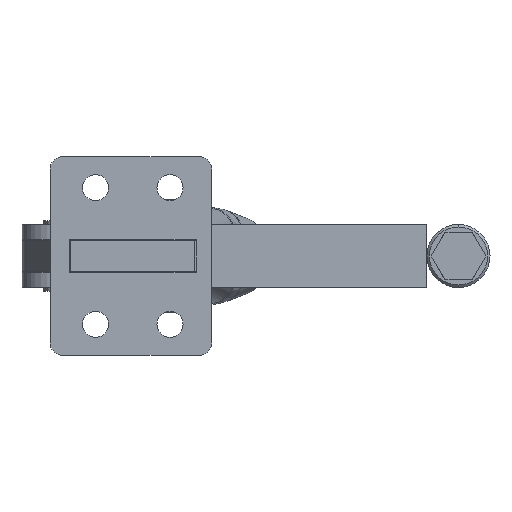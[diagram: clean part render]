
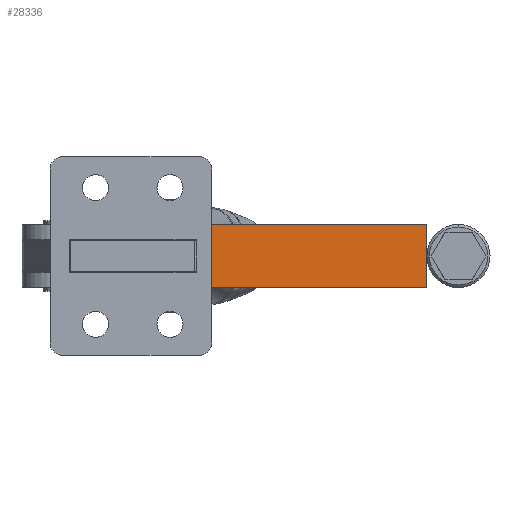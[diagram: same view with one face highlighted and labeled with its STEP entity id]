
A CAD part, front view. The second image highlights one B-rep face of the part: STEP entity #28336.
In plain terms, the highlighted planar face has unit normal (0.001, -1, 0).
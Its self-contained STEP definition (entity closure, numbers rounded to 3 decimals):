
#348 = FACE_OUTER_BOUND ( 'NONE', #8696, .T. ) ;
#603 = CIRCLE ( 'NONE', #27041, 6.5 ) ;
#768 = VECTOR ( 'NONE', #3323, 1000. ) ;
#1986 = VERTEX_POINT ( 'NONE', #27159 ) ;
#2802 = DIRECTION ( 'NONE',  ( 0., 0., -1. ) ) ;
#2814 = CARTESIAN_POINT ( 'NONE',  ( -69.5, -15., 0. ) ) ;
#3224 = CARTESIAN_POINT ( 'NONE',  ( -69.5, -15., -6.5 ) ) ;
#3281 = EDGE_CURVE ( 'NONE', #1986, #11121, #11410, .T. ) ;
#3323 = DIRECTION ( 'NONE',  ( 0., 0., -1. ) ) ;
#4105 = DIRECTION ( 'NONE',  ( 1., 0., 0. ) ) ;
#4804 = CARTESIAN_POINT ( 'NONE',  ( -69.5, -15., 6.5 ) ) ;
#5083 = DIRECTION ( 'NONE',  ( 0., 0., 1. ) ) ;
#6772 = CARTESIAN_POINT ( 'NONE',  ( -163., -15., 12.5 ) ) ;
#7205 = CARTESIAN_POINT ( 'NONE',  ( -163., -15., 12.5 ) ) ;
#7810 = AXIS2_PLACEMENT_3D ( 'NONE', #7205, #9527, #25438 ) ;
#7999 = LINE ( 'NONE', #16567, #19411 ) ;
#8095 = EDGE_CURVE ( 'NONE', #23803, #18026, #7999, .T. ) ;
#8696 = EDGE_LOOP ( 'NONE', ( #21196, #27291, #25949, #26982, #11458, #13996, #10576, #24153 ) ) ;
#8802 = VECTOR ( 'NONE', #4105, 1000. ) ;
#8855 = VERTEX_POINT ( 'NONE', #28842 ) ;
#9527 = DIRECTION ( 'NONE',  ( 0., 1., 0. ) ) ;
#10576 = ORIENTED_EDGE ( 'NONE', *, *, #19215, .F. ) ;
#10696 = VECTOR ( 'NONE', #27137, 1000. ) ;
#10747 = VERTEX_POINT ( 'NONE', #4804 ) ;
#11121 = VERTEX_POINT ( 'NONE', #13017 ) ;
#11410 = LINE ( 'NONE', #20266, #10696 ) ;
#11458 = ORIENTED_EDGE ( 'NONE', *, *, #3281, .T. ) ;
#12182 = LINE ( 'NONE', #23857, #768 ) ;
#12363 = CARTESIAN_POINT ( 'NONE',  ( 0., -15., -6.5 ) ) ;
#13017 = CARTESIAN_POINT ( 'NONE',  ( -163., -15., -12.5 ) ) ;
#13438 = VECTOR ( 'NONE', #23095, 1000. ) ;
#13996 = ORIENTED_EDGE ( 'NONE', *, *, #24389, .T. ) ;
#14114 = EDGE_CURVE ( 'NONE', #19417, #17449, #24489, .T. ) ;
#16261 = EDGE_CURVE ( 'NONE', #1986, #23803, #29022, .T. ) ;
#16567 = CARTESIAN_POINT ( 'NONE',  ( -15., -15., 12.5 ) ) ;
#16824 = DIRECTION ( 'NONE',  ( -1., 0., 0. ) ) ;
#17449 = VERTEX_POINT ( 'NONE', #3224 ) ;
#17778 = CARTESIAN_POINT ( 'NONE',  ( -69.5, -15., 6.5 ) ) ;
#17858 = CARTESIAN_POINT ( 'NONE',  ( -15., -15., 12.5 ) ) ;
#18026 = VERTEX_POINT ( 'NONE', #27112 ) ;
#18429 = VECTOR ( 'NONE', #16824, 1000. ) ;
#18763 = DIRECTION ( 'NONE',  ( 0., 1., 0. ) ) ;
#19215 = EDGE_CURVE ( 'NONE', #19417, #8855, #12182, .T. ) ;
#19411 = VECTOR ( 'NONE', #2802, 1000. ) ;
#19417 = VERTEX_POINT ( 'NONE', #27019 ) ;
#20266 = CARTESIAN_POINT ( 'NONE',  ( -163., -15., 12.5 ) ) ;
#20438 = DIRECTION ( 'NONE',  ( 1., 0., 0. ) ) ;
#20817 = CARTESIAN_POINT ( 'NONE',  ( -163., -15., -12.5 ) ) ;
#20876 = PLANE ( 'NONE',  #7810 ) ;
#21196 = ORIENTED_EDGE ( 'NONE', *, *, #23890, .T. ) ;
#22256 = VECTOR ( 'NONE', #20438, 1000. ) ;
#23095 = DIRECTION ( 'NONE',  ( 1., 0., 0. ) ) ;
#23761 = EDGE_CURVE ( 'NONE', #10747, #18026, #26980, .T. ) ;
#23803 = VERTEX_POINT ( 'NONE', #17858 ) ;
#23857 = CARTESIAN_POINT ( 'NONE',  ( -15., -15., 12.5 ) ) ;
#23890 = EDGE_CURVE ( 'NONE', #17449, #10747, #603, .T. ) ;
#24153 = ORIENTED_EDGE ( 'NONE', *, *, #14114, .T. ) ;
#24389 = EDGE_CURVE ( 'NONE', #11121, #8855, #25499, .T. ) ;
#24489 = LINE ( 'NONE', #12363, #18429 ) ;
#25438 = DIRECTION ( 'NONE',  ( -1., 0., 0. ) ) ;
#25499 = LINE ( 'NONE', #20817, #13438 ) ;
#25949 = ORIENTED_EDGE ( 'NONE', *, *, #8095, .F. ) ;
#26980 = LINE ( 'NONE', #17778, #8802 ) ;
#26982 = ORIENTED_EDGE ( 'NONE', *, *, #16261, .F. ) ;
#27019 = CARTESIAN_POINT ( 'NONE',  ( -15., -15., -6.5 ) ) ;
#27041 = AXIS2_PLACEMENT_3D ( 'NONE', #2814, #18763, #5083 ) ;
#27112 = CARTESIAN_POINT ( 'NONE',  ( -15., -15., 6.5 ) ) ;
#27137 = DIRECTION ( 'NONE',  ( 0., 0., -1. ) ) ;
#27159 = CARTESIAN_POINT ( 'NONE',  ( -163., -15., 12.5 ) ) ;
#27291 = ORIENTED_EDGE ( 'NONE', *, *, #23761, .T. ) ;
#28336 = ADVANCED_FACE ( 'NONE', ( #348 ), #20876, .F. ) ;
#28842 = CARTESIAN_POINT ( 'NONE',  ( -15., -15., -12.5 ) ) ;
#29022 = LINE ( 'NONE', #6772, #22256 ) ;
